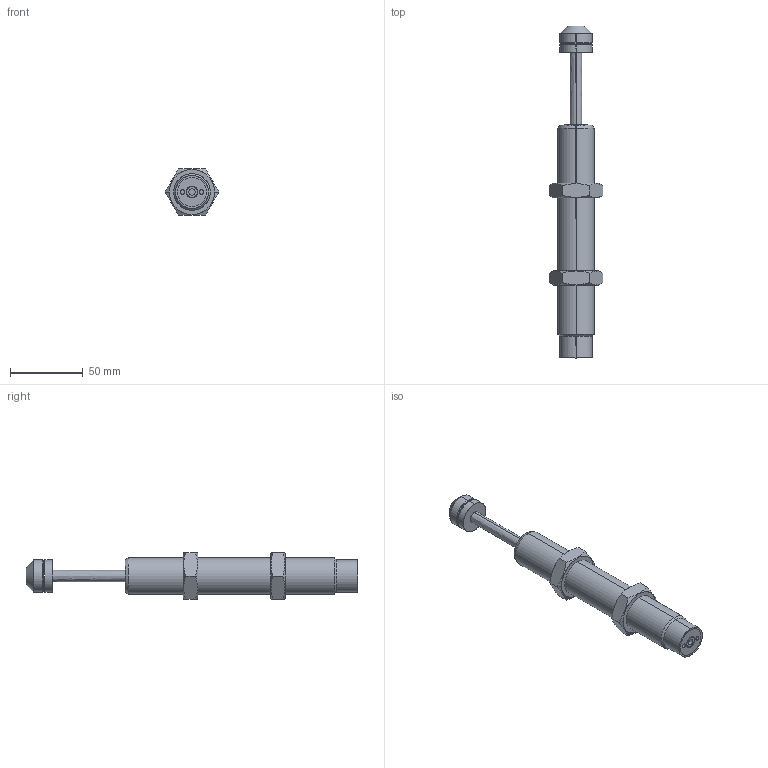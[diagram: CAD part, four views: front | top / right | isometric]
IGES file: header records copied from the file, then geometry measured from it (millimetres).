
Start section: SolidWorks IGES file using analytic representation for surfaces
Bounding box: 36.95 x 228 x 32 mm (x, y, z)
Surface area: 21620.7 mm2 (no closed solid volume)
Topology: 0 solids, 0 shells, 85 faces, 1828 edges, 1828 vertices
Faces by surface type: revolution 52, bspline 33
